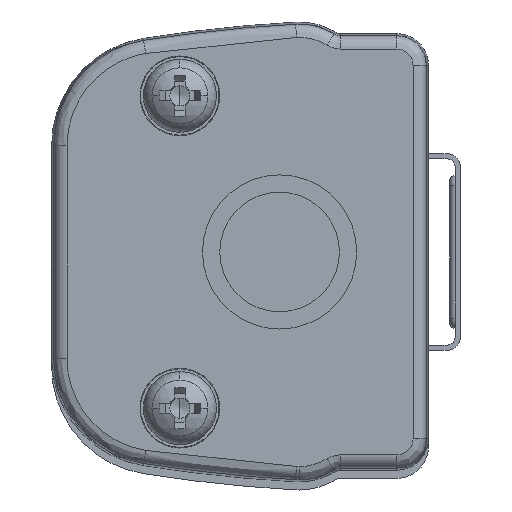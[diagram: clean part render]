
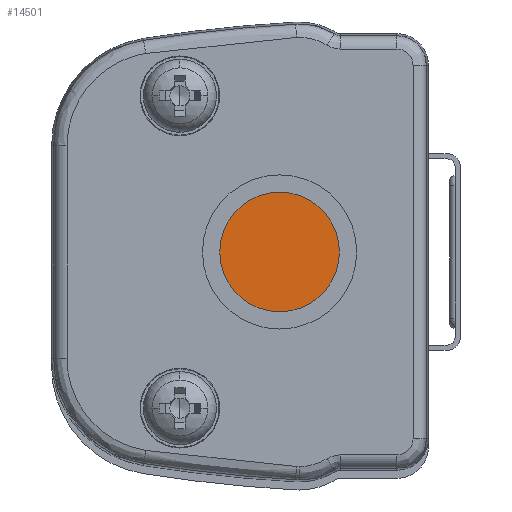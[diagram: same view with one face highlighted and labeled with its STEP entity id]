
A CAD part, left-side view. The second image highlights one B-rep face of the part: STEP entity #14501.
In plain terms, the highlighted planar face has unit normal (-1, 0, 0).
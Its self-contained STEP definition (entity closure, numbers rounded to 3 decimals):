
#413 = DIRECTION ( 'NONE',  ( 0., 0., 1. ) ) ;
#485 = PLANE ( 'NONE',  #5008 ) ;
#583 = ORIENTED_EDGE ( 'NONE', *, *, #5704, .T. ) ;
#1803 = EDGE_CURVE ( 'NONE', #4974, #2746, #4174, .T. ) ;
#2675 = CARTESIAN_POINT ( 'NONE',  ( -157.2, -2.628, 305. ) ) ;
#2746 = VERTEX_POINT ( 'NONE', #12900 ) ;
#2944 = DIRECTION ( 'NONE',  ( -1., 0., 0. ) ) ;
#3536 = AXIS2_PLACEMENT_3D ( 'NONE', #12540, #2944, #8833 ) ;
#4086 = ORIENTED_EDGE ( 'NONE', *, *, #1803, .T. ) ;
#4174 = CIRCLE ( 'NONE', #11701, 4.5 ) ;
#4974 = VERTEX_POINT ( 'NONE', #11098 ) ;
#5008 = AXIS2_PLACEMENT_3D ( 'NONE', #2675, #14622, #413 ) ;
#5704 = EDGE_CURVE ( 'NONE', #2746, #4974, #13072, .T. ) ;
#7375 = DIRECTION ( 'NONE',  ( -1., 0., 0. ) ) ;
#8260 = EDGE_LOOP ( 'NONE', ( #4086, #583 ) ) ;
#8833 = DIRECTION ( 'NONE',  ( 0., 0., 1. ) ) ;
#10935 = FACE_OUTER_BOUND ( 'NONE', #8260, .T. ) ;
#11098 = CARTESIAN_POINT ( 'NONE',  ( -157.2, -2.628, 309.5 ) ) ;
#11701 = AXIS2_PLACEMENT_3D ( 'NONE', #11953, #7375, #12024 ) ;
#11953 = CARTESIAN_POINT ( 'NONE',  ( -157.2, -2.628, 305. ) ) ;
#12024 = DIRECTION ( 'NONE',  ( 0., 0., 1. ) ) ;
#12540 = CARTESIAN_POINT ( 'NONE',  ( -157.2, -2.628, 305. ) ) ;
#12900 = CARTESIAN_POINT ( 'NONE',  ( -157.2, -2.628, 300.5 ) ) ;
#13072 = CIRCLE ( 'NONE', #3536, 4.5 ) ;
#14501 = ADVANCED_FACE ( 'NONE', ( #10935 ), #485, .T. ) ;
#14622 = DIRECTION ( 'NONE',  ( -1., 0., 0. ) ) ;
